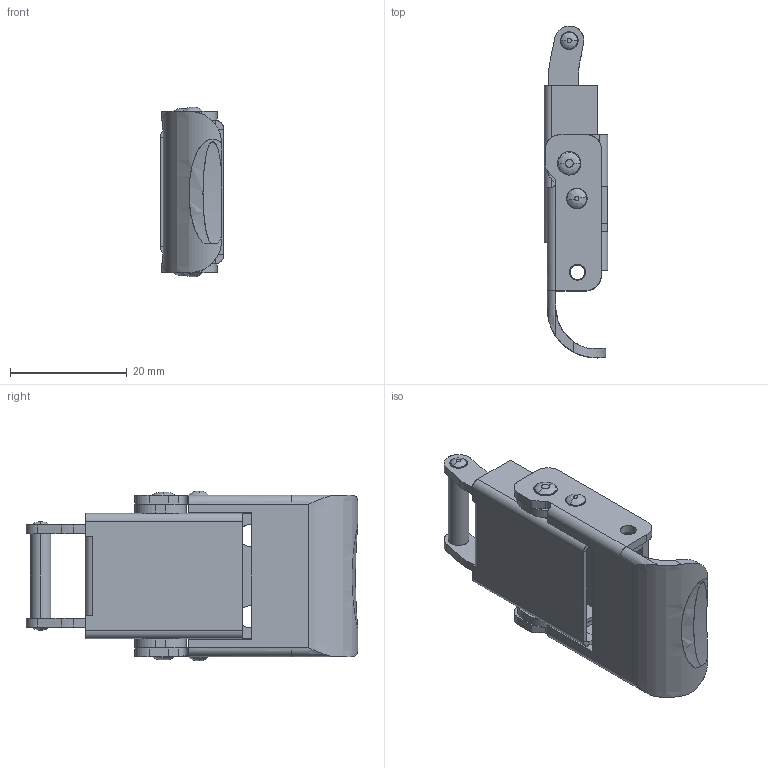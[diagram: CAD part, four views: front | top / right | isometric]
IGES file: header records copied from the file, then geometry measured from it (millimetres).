
Start section: SolidWorks IGES FILE using analytic representation for surfaces
Global section: file name: C:\Documents and Settings\brechard\Bureau\GP 13\GP 13.IGS; native system: SolidWorks 2001Plus by SolidWorks Corporation; preprocessor: Version 5.3; author: brechard; date: 050126.144031; units: millimetre
Bounding box: 10.9 x 56.73 x 29 mm (x, y, z)
Surface area: 9753.9 mm2 (no closed solid volume)
Topology: 0 solids, 0 shells, 301 faces, 4125 edges, 4124 vertices
Faces by surface type: bspline 193, revolution 108
